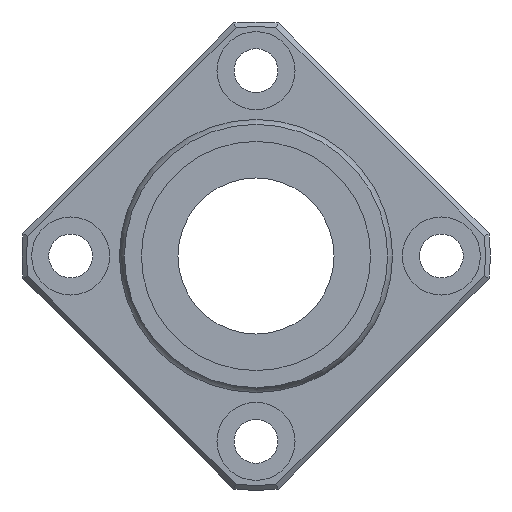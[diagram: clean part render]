
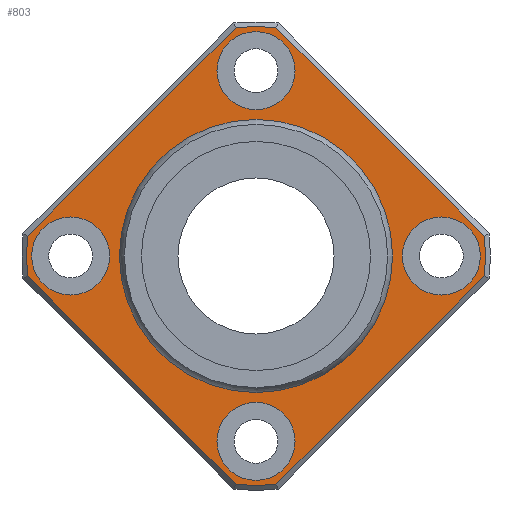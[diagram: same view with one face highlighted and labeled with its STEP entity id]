
A CAD part, left-side view. The second image highlights one B-rep face of the part: STEP entity #803.
In plain terms, the highlighted planar face has unit normal (-1, 0, 0).
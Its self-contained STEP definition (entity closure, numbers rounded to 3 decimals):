
#498=CARTESIAN_POINT('',(31.,-2.045,-23.411));
#499=VERTEX_POINT('',#498);
#507=CARTESIAN_POINT('',(31.,2.045,-23.411));
#508=VERTEX_POINT('',#507);
#509=CARTESIAN_POINT('',(31.,0.0,0.0));
#510=DIRECTION('',(1.0,0.0,0.0));
#511=DIRECTION('',(0.0,0.0,-1.0));
#512=AXIS2_PLACEMENT_3D('',#509,#510,#511);
#513=CIRCLE('',#512,23.5);
#514=EDGE_CURVE('',#499,#508,#513,.T.);
#540=CARTESIAN_POINT('',(31.,23.411,-2.045));
#541=VERTEX_POINT('',#540);
#542=CARTESIAN_POINT('',(31.,2.045,-23.411));
#543=DIRECTION('',(0.0,0.707,0.707));
#544=VECTOR('',#543,30.216);
#545=LINE('',#542,#544);
#546=EDGE_CURVE('',#508,#541,#545,.T.);
#573=CARTESIAN_POINT('',(31.,23.411,2.045));
#574=VERTEX_POINT('',#573);
#575=CARTESIAN_POINT('',(31.,0.0,0.0));
#576=DIRECTION('',(1.0,0.0,0.0));
#577=DIRECTION('',(0.0,0.0,1.0));
#578=AXIS2_PLACEMENT_3D('',#575,#576,#577);
#579=CIRCLE('',#578,23.5);
#580=EDGE_CURVE('',#541,#574,#579,.T.);
#604=CARTESIAN_POINT('',(31.,2.045,23.411));
#605=VERTEX_POINT('',#604);
#606=CARTESIAN_POINT('',(31.,23.411,2.045));
#607=DIRECTION('',(0.0,-0.707,0.707));
#608=VECTOR('',#607,30.216);
#609=LINE('',#606,#608);
#610=EDGE_CURVE('',#574,#605,#609,.T.);
#629=CARTESIAN_POINT('',(31.,-2.045,23.411));
#630=VERTEX_POINT('',#629);
#631=CARTESIAN_POINT('',(31.,0.0,0.0));
#632=DIRECTION('',(1.0,0.0,0.0));
#633=DIRECTION('',(0.0,0.0,1.0));
#634=AXIS2_PLACEMENT_3D('',#631,#632,#633);
#635=CIRCLE('',#634,23.5);
#636=EDGE_CURVE('',#605,#630,#635,.T.);
#655=CARTESIAN_POINT('',(31.,-23.411,2.045));
#656=VERTEX_POINT('',#655);
#657=CARTESIAN_POINT('',(31.,-2.045,23.411));
#658=DIRECTION('',(0.0,-0.707,-0.707));
#659=VECTOR('',#658,30.216);
#660=LINE('',#657,#659);
#661=EDGE_CURVE('',#630,#656,#660,.T.);
#680=CARTESIAN_POINT('',(31.,-23.411,-2.045));
#681=VERTEX_POINT('',#680);
#682=CARTESIAN_POINT('',(31.,0.0,0.0));
#683=DIRECTION('',(1.0,0.0,0.0));
#684=DIRECTION('',(0.0,0.0,1.0));
#685=AXIS2_PLACEMENT_3D('',#682,#683,#684);
#686=CIRCLE('',#685,23.5);
#687=EDGE_CURVE('',#656,#681,#686,.T.);
#706=CARTESIAN_POINT('',(31.,-23.411,-2.045));
#707=DIRECTION('',(0.0,0.707,-0.707));
#708=VECTOR('',#707,30.216);
#709=LINE('',#706,#708);
#710=EDGE_CURVE('',#681,#499,#709,.T.);
#733=CARTESIAN_POINT('',(31.,0.0,18.887));
#734=DIRECTION('',(-1.0,0.0,0.0));
#735=DIRECTION('',(0.0,0.0,1.0));
#736=AXIS2_PLACEMENT_3D('',#733,#734,#735);
#737=PLANE('',#736);
#738=ORIENTED_EDGE('',*,*,#514,.F.);
#739=ORIENTED_EDGE('',*,*,#710,.F.);
#740=ORIENTED_EDGE('',*,*,#687,.F.);
#741=ORIENTED_EDGE('',*,*,#661,.F.);
#742=ORIENTED_EDGE('',*,*,#636,.F.);
#743=ORIENTED_EDGE('',*,*,#610,.F.);
#744=ORIENTED_EDGE('',*,*,#580,.F.);
#745=ORIENTED_EDGE('',*,*,#546,.F.);
#746=EDGE_LOOP('',(#738,#739,#740,#741,#742,#743,#744,#745));
#747=FACE_OUTER_BOUND('',#746,.T.);
#748=CARTESIAN_POINT('',(31.,0.0,13.773));
#749=VERTEX_POINT('',#748);
#750=CARTESIAN_POINT('',(31.,0.0,0.0));
#751=DIRECTION('',(-1.0,0.0,0.0));
#752=DIRECTION('',(0.0,0.0,1.0));
#753=AXIS2_PLACEMENT_3D('',#750,#751,#752);
#754=CIRCLE('',#753,13.773);
#755=EDGE_CURVE('',#749,#749,#754,.T.);
#756=ORIENTED_EDGE('',*,*,#755,.F.);
#757=EDGE_LOOP('',(#756));
#758=FACE_BOUND('',#757,.T.);
#759=CARTESIAN_POINT('',(31.0,-15.0,0.));
#760=VERTEX_POINT('',#759);
#761=CARTESIAN_POINT('',(31.,-19.0,0.));
#762=DIRECTION('',(1.0,0.0,0.0));
#763=DIRECTION('',(0.0,1.0,0.0));
#764=AXIS2_PLACEMENT_3D('',#761,#762,#763);
#765=CIRCLE('',#764,4.0);
#766=EDGE_CURVE('',#760,#760,#765,.T.);
#767=ORIENTED_EDGE('',*,*,#766,.T.);
#768=EDGE_LOOP('',(#767));
#769=FACE_BOUND('',#768,.T.);
#770=CARTESIAN_POINT('',(31.0,23.,0.));
#771=VERTEX_POINT('',#770);
#772=CARTESIAN_POINT('',(31.,19.0,0.));
#773=DIRECTION('',(1.0,0.0,0.0));
#774=DIRECTION('',(0.0,1.0,0.0));
#775=AXIS2_PLACEMENT_3D('',#772,#773,#774);
#776=CIRCLE('',#775,4.0);
#777=EDGE_CURVE('',#771,#771,#776,.T.);
#778=ORIENTED_EDGE('',*,*,#777,.T.);
#779=EDGE_LOOP('',(#778));
#780=FACE_BOUND('',#779,.T.);
#781=CARTESIAN_POINT('',(31.0,4.,19.0));
#782=VERTEX_POINT('',#781);
#783=CARTESIAN_POINT('',(31.,0.,19.0));
#784=DIRECTION('',(1.0,0.0,0.0));
#785=DIRECTION('',(0.0,1.0,0.0));
#786=AXIS2_PLACEMENT_3D('',#783,#784,#785);
#787=CIRCLE('',#786,4.0);
#788=EDGE_CURVE('',#782,#782,#787,.T.);
#789=ORIENTED_EDGE('',*,*,#788,.T.);
#790=EDGE_LOOP('',(#789));
#791=FACE_BOUND('',#790,.T.);
#792=CARTESIAN_POINT('',(31.0,4.,-19.0));
#793=VERTEX_POINT('',#792);
#794=CARTESIAN_POINT('',(31.,0.,-19.0));
#795=DIRECTION('',(1.0,0.0,0.0));
#796=DIRECTION('',(0.0,1.0,0.0));
#797=AXIS2_PLACEMENT_3D('',#794,#795,#796);
#798=CIRCLE('',#797,4.0);
#799=EDGE_CURVE('',#793,#793,#798,.T.);
#800=ORIENTED_EDGE('',*,*,#799,.T.);
#801=EDGE_LOOP('',(#800));
#802=FACE_BOUND('',#801,.T.);
#803=ADVANCED_FACE('',(#747,#758,#769,#780,#791,#802),#737,.T.);
